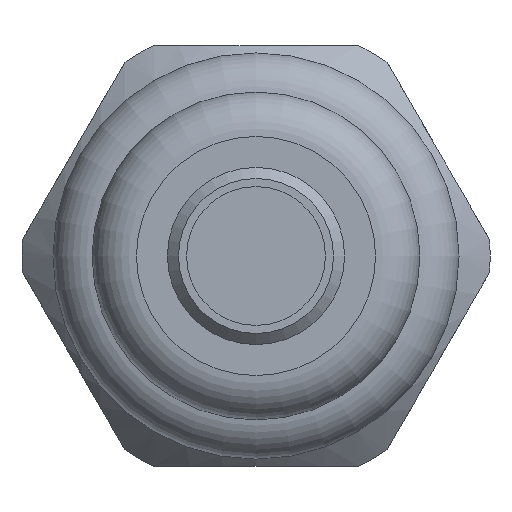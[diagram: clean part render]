
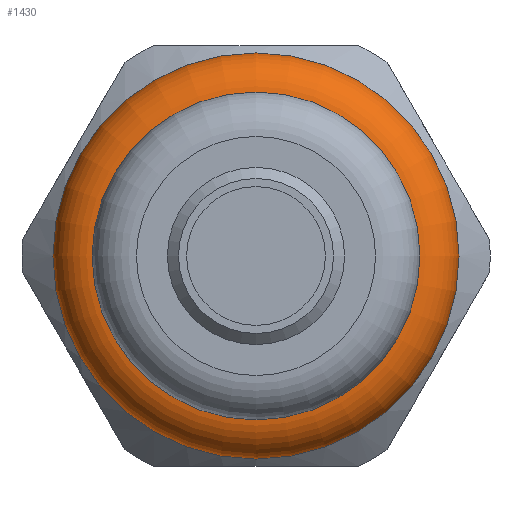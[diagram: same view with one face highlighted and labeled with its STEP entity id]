
A CAD part, left-side view. The second image highlights one B-rep face of the part: STEP entity #1430.
In plain terms, the highlighted toroidal (fillet/blend) face has major radius 10.75 mm and minor radius 3 mm.
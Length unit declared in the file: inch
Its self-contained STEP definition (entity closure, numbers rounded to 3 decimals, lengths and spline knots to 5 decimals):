
#14=TOROIDAL_SURFACE('',#1596,0.42323,0.11811);
#145=FACE_OUTER_BOUND('',#230,.T.);
#230=EDGE_LOOP('',(#1111,#1112,#1113,#1114,#1115,#1116));
#445=CIRCLE('',#1597,0.43307);
#446=CIRCLE('',#1598,0.43307);
#447=CIRCLE('',#1599,0.11811);
#448=CIRCLE('',#1600,0.54134);
#449=CIRCLE('',#1601,0.54134);
#596=VERTEX_POINT('',#2581);
#597=VERTEX_POINT('',#2582);
#598=VERTEX_POINT('',#2585);
#599=VERTEX_POINT('',#2587);
#781=EDGE_CURVE('',#596,#597,#445,.T.);
#782=EDGE_CURVE('',#597,#596,#446,.T.);
#783=EDGE_CURVE('',#597,#598,#447,.T.);
#784=EDGE_CURVE('',#598,#599,#448,.T.);
#785=EDGE_CURVE('',#599,#598,#449,.T.);
#1111=ORIENTED_EDGE('',*,*,#781,.F.);
#1112=ORIENTED_EDGE('',*,*,#782,.F.);
#1113=ORIENTED_EDGE('',*,*,#783,.T.);
#1114=ORIENTED_EDGE('',*,*,#784,.T.);
#1115=ORIENTED_EDGE('',*,*,#785,.T.);
#1116=ORIENTED_EDGE('',*,*,#783,.F.);
#1430=ADVANCED_FACE('',(#145),#14,.T.);
#1596=AXIS2_PLACEMENT_3D('',#2580,#1955,#1956);
#1597=AXIS2_PLACEMENT_3D('',#2583,#1957,#1958);
#1598=AXIS2_PLACEMENT_3D('',#2584,#1959,#1960);
#1599=AXIS2_PLACEMENT_3D('',#2586,#1961,#1962);
#1600=AXIS2_PLACEMENT_3D('',#2588,#1963,#1964);
#1601=AXIS2_PLACEMENT_3D('',#2589,#1965,#1966);
#1955=DIRECTION('center_axis',(-1.,0.,0.));
#1956=DIRECTION('ref_axis',(0.,0.866,-0.5));
#1957=DIRECTION('center_axis',(-1.,0.,0.));
#1958=DIRECTION('ref_axis',(0.,0.866,-0.5));
#1959=DIRECTION('center_axis',(-1.,0.,0.));
#1960=DIRECTION('ref_axis',(0.,0.866,-0.5));
#1961=DIRECTION('center_axis',(0.,0.5,0.866));
#1962=DIRECTION('ref_axis',(0.,-0.866,0.5));
#1963=DIRECTION('center_axis',(-1.,0.,0.));
#1964=DIRECTION('ref_axis',(0.,0.866,-0.5));
#1965=DIRECTION('center_axis',(-1.,0.,0.));
#1966=DIRECTION('ref_axis',(0.,0.866,-0.5));
#2580=CARTESIAN_POINT('Origin',(-2.77285,-1.13623,0.37627));
#2581=CARTESIAN_POINT('',(-2.89055,-0.76118,0.15974));
#2582=CARTESIAN_POINT('',(-2.89055,-1.51128,0.59281));
#2583=CARTESIAN_POINT('Origin',(-2.89055,-1.13623,0.37627));
#2584=CARTESIAN_POINT('Origin',(-2.89055,-1.13623,0.37627));
#2585=CARTESIAN_POINT('',(-2.77285,-1.60505,0.64694));
#2586=CARTESIAN_POINT('Origin',(-2.77285,-1.50276,0.58789));
#2587=CARTESIAN_POINT('',(-2.77285,-0.66742,0.1056));
#2588=CARTESIAN_POINT('Origin',(-2.77285,-1.13623,0.37627));
#2589=CARTESIAN_POINT('Origin',(-2.77285,-1.13623,0.37627));
